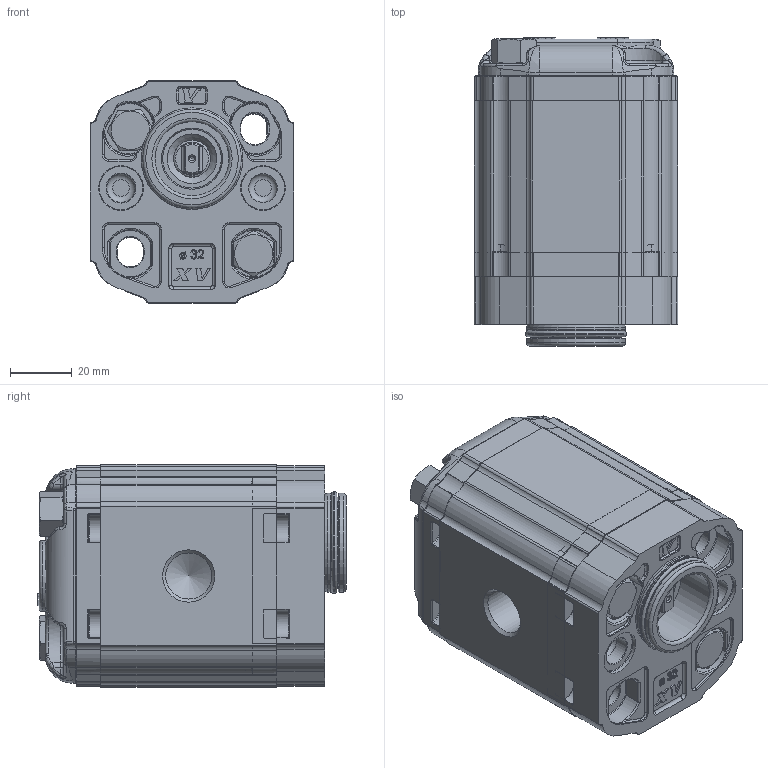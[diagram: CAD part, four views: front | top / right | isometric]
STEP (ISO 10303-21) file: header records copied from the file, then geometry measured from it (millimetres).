
FILE_DESCRIPTION( ( 'Unknown' ), '1' );
FILE_NAME( 'P:/montaggio_easy/output/STP/X1M2919CBBF.stp', 'Unknown', ( 'Unknown' ), ( 'Unknown' ), 'PSStep 14.0', 'Unknown', ' ' );
FILE_SCHEMA( ( 'AUTOMOTIVE_DESIGN { 1 0 10303 214 1 1 1 1 }' ) );
Length unit declared in the file: millimetre
Products named in the file (5): Assem1; X1M19; 1C; X1BBH57; XM161-F
Bounding box: 66 x 99.9 x 72 mm (x, y, z)
Surface area: 133087.3 mm2
Topology: 8 solids, 10 shells, 3640 faces, 9232 edges, 5848 vertices
Faces by surface type: plane 1622, cylinder 974, torus 386, extrusion 296, bspline 256, cone 98, sphere 8
Full cylindrical faces by diameter (mm): 1.5 x2, 3 x8, 8 x8, 8.5 x6, 9 x4, 9.3 x4, 10.5 x4, 11.965 x2, 12 x2, 14.5 x4, 14.95 x4, 15.941 x2, 17.99 x2, 19.02 x4, 24 x2, 29.4 x4, 32 x4, 32.96 x2
Entity records: 77055 total; most frequent: CARTESIAN_POINT 19596, ORIENTED_EDGE 8948, DIRECTION 8632, EDGE_CURVE 4474, AXIS2_PLACEMENT_3D 2998, VERTEX_POINT 2887, VECTOR 2636, LINE 2488
